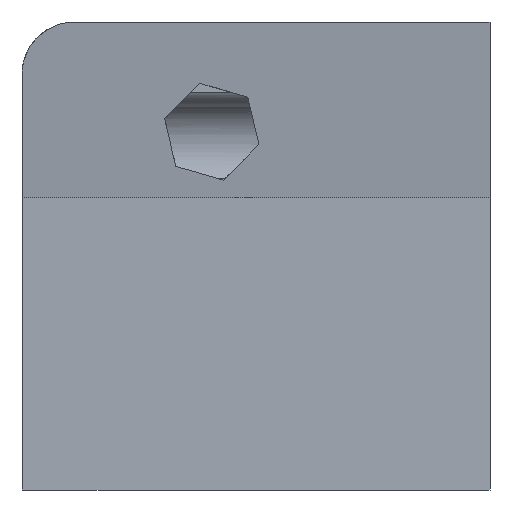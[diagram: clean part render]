
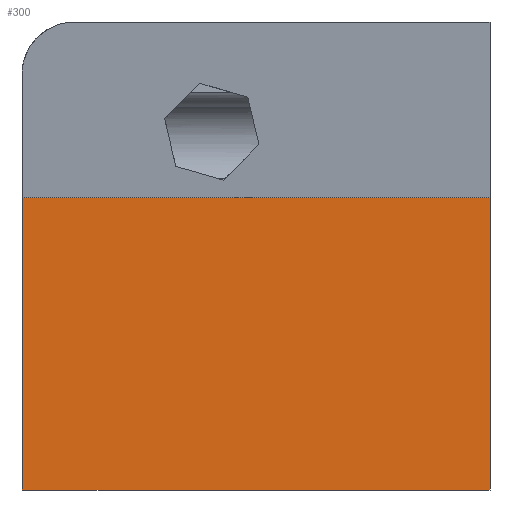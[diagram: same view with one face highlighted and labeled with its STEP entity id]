
A CAD part, front view. The second image highlights one B-rep face of the part: STEP entity #300.
In plain terms, the highlighted planar face has unit normal (0, -1, 0).
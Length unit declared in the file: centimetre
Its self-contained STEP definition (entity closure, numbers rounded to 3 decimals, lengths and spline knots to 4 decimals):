
#28 = CARTESIAN_POINT ( 'NONE',  ( 0., 0., 0. ) ) ;
#118 = VECTOR ( 'NONE', #816, 100. ) ;
#134 = ORIENTED_EDGE ( 'NONE', *, *, #1011, .T. ) ;
#172 = LINE ( 'NONE', #1561, #1545 ) ;
#262 = ORIENTED_EDGE ( 'NONE', *, *, #484, .F. ) ;
#300 = ADVANCED_FACE ( 'NONE', ( #1746 ), #1566, .F. ) ;
#308 = VERTEX_POINT ( 'NONE', #343 ) ;
#343 = CARTESIAN_POINT ( 'NONE',  ( 1000., 0., 624.5821 ) ) ;
#361 = DIRECTION ( 'NONE',  ( 0., 0., 1. ) ) ;
#391 = CARTESIAN_POINT ( 'NONE',  ( 1000., 0., 1000. ) ) ;
#484 = EDGE_CURVE ( 'NONE', #308, #848, #1624, .T. ) ;
#535 = AXIS2_PLACEMENT_3D ( 'NONE', #1717, #1587, #361 ) ;
#578 = DIRECTION ( 'NONE',  ( 1., 0., 0. ) ) ;
#621 = DIRECTION ( 'NONE',  ( 0., 0., -1. ) ) ;
#630 = LINE ( 'NONE', #795, #1668 ) ;
#795 = CARTESIAN_POINT ( 'NONE',  ( 0., 0., 1000. ) ) ;
#816 = DIRECTION ( 'NONE',  ( 0., 0., -1. ) ) ;
#848 = VERTEX_POINT ( 'NONE', #888 ) ;
#888 = CARTESIAN_POINT ( 'NONE',  ( 1000., 0., 0. ) ) ;
#924 = EDGE_CURVE ( 'NONE', #1612, #308, #172, .T. ) ;
#933 = VERTEX_POINT ( 'NONE', #1689 ) ;
#961 = ORIENTED_EDGE ( 'NONE', *, *, #924, .F. ) ;
#1011 = EDGE_CURVE ( 'NONE', #1612, #933, #630, .T. ) ;
#1081 = EDGE_LOOP ( 'NONE', ( #961, #134, #1765, #262 ) ) ;
#1255 = VECTOR ( 'NONE', #578, 100. ) ;
#1256 = EDGE_CURVE ( 'NONE', #933, #848, #1263, .T. ) ;
#1263 = LINE ( 'NONE', #28, #1255 ) ;
#1265 = DIRECTION ( 'NONE',  ( 1., 0., 0. ) ) ;
#1473 = CARTESIAN_POINT ( 'NONE',  ( 0., 0., 624.5821 ) ) ;
#1545 = VECTOR ( 'NONE', #1265, 100. ) ;
#1561 = CARTESIAN_POINT ( 'NONE',  ( 0., 0., 624.5821 ) ) ;
#1566 = PLANE ( 'NONE',  #535 ) ;
#1587 = DIRECTION ( 'NONE',  ( 0., 1., 0. ) ) ;
#1612 = VERTEX_POINT ( 'NONE', #1473 ) ;
#1624 = LINE ( 'NONE', #391, #118 ) ;
#1668 = VECTOR ( 'NONE', #621, 100. ) ;
#1689 = CARTESIAN_POINT ( 'NONE',  ( 0., 0., 0. ) ) ;
#1717 = CARTESIAN_POINT ( 'NONE',  ( 0., 0., 1000. ) ) ;
#1746 = FACE_OUTER_BOUND ( 'NONE', #1081, .T. ) ;
#1765 = ORIENTED_EDGE ( 'NONE', *, *, #1256, .T. ) ;
